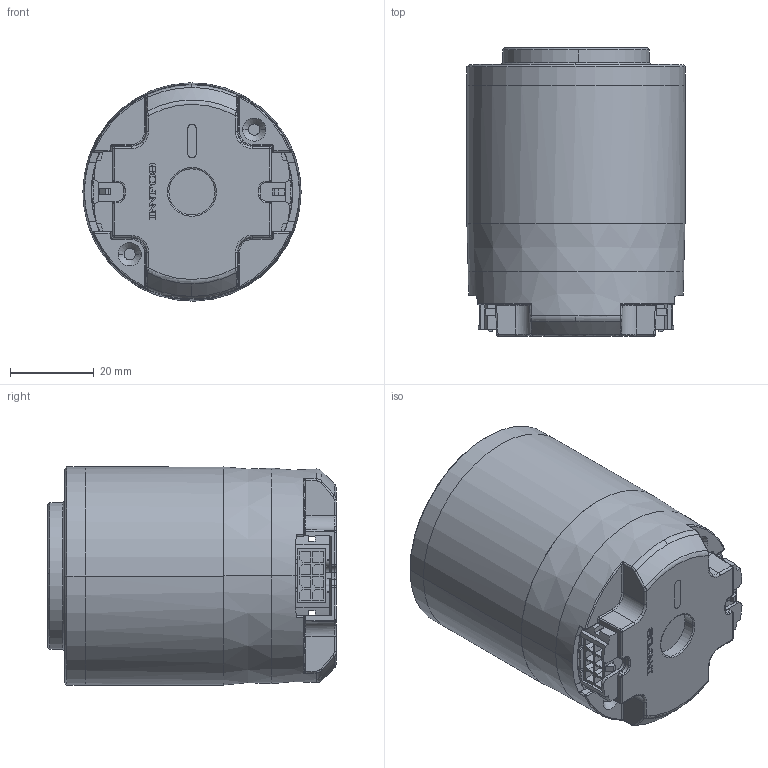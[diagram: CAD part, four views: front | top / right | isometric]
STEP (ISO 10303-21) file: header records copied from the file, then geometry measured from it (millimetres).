
FILE_DESCRIPTION (( 'STEP AP214' ), '1' );
FILE_NAME ('QDD-C-NE30-36_v1_8.STEP', '2019-07-25T09:09:40', ( 'Microsoft' ), ( 'Microsoft' ), 'SwSTEP 2.0', 'SolidWorks 2018', '' );
FILE_SCHEMA (( 'AUTOMOTIVE_DESIGN' ));
Length unit declared in the file: millimetre
Products named in the file (1): QDD-C-NE30-36_v1_8
Bounding box: 52.02 x 68.75 x 52.01 mm (x, y, z)
Volume: 125596.7 mm3; surface area: 30479.8 mm2
Topology: 4 solids, 5 shells, 2760 faces, 7398 edges, 4702 vertices
Faces by surface type: plane 1838, bspline 546, cylinder 249, cone 79, torus 37, sphere 11
Entity records: 134322 total; most frequent: CARTESIAN_POINT 38481, ORIENTED_EDGE 14724, DIRECTION 11456, EDGE_CURVE 7362, VECTOR 5594, LINE 5594, VERTEX_POINT 4702, EDGE_LOOP 2966
